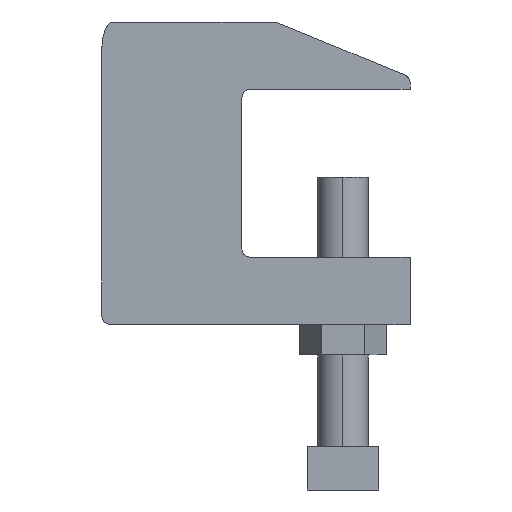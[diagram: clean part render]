
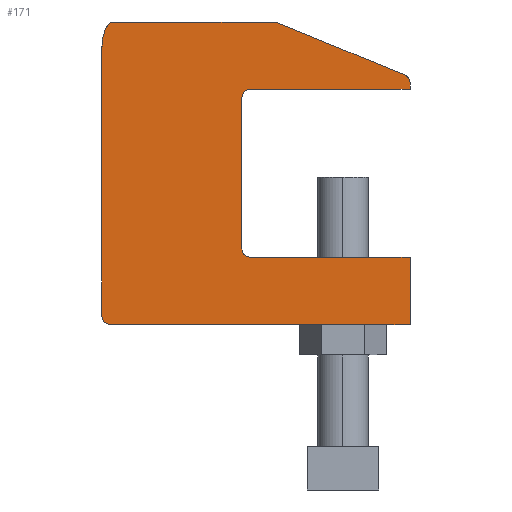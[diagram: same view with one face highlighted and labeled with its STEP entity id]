
A CAD part, front view. The second image highlights one B-rep face of the part: STEP entity #171.
In plain terms, the highlighted planar face has unit normal (0, -1, 0).
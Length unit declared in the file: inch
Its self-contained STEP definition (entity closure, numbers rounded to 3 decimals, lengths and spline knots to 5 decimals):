
#171=ADVANCED_FACE('',(#330),#331,.T.);
#330=FACE_OUTER_BOUND('',#615,.T.);
#331=PLANE('',#616);
#615=EDGE_LOOP('',(#929,#930,#931,#932,#933,#934,#935,#936,#937,#938,#939,#940,#941,#942,#943));
#616=AXIS2_PLACEMENT_3D('',#944,#945,#946);
#929=ORIENTED_EDGE('',*,*,#1128,.F.);
#930=ORIENTED_EDGE('',*,*,#1076,.F.);
#931=ORIENTED_EDGE('',*,*,#1124,.F.);
#932=ORIENTED_EDGE('',*,*,#1143,.F.);
#933=ORIENTED_EDGE('',*,*,#1093,.F.);
#934=ORIENTED_EDGE('',*,*,#1137,.F.);
#935=ORIENTED_EDGE('',*,*,#1049,.F.);
#936=ORIENTED_EDGE('',*,*,#1121,.F.);
#937=ORIENTED_EDGE('',*,*,#1109,.F.);
#938=ORIENTED_EDGE('',*,*,#1144,.F.);
#939=ORIENTED_EDGE('',*,*,#1033,.F.);
#940=ORIENTED_EDGE('',*,*,#1041,.F.);
#941=ORIENTED_EDGE('',*,*,#1118,.F.);
#942=ORIENTED_EDGE('',*,*,#1045,.F.);
#943=ORIENTED_EDGE('',*,*,#1018,.F.);
#944=CARTESIAN_POINT('',(1.02952,0.,1.07648));
#945=DIRECTION('',(0.0,-1.0,0.0));
#946=DIRECTION('',(1.0,0.0,0.0));
#1018=EDGE_CURVE('',#1191,#1192,#1193,.T.);
#1033=EDGE_CURVE('',#1218,#1219,#1220,.T.);
#1041=EDGE_CURVE('',#1232,#1218,#1233,.T.);
#1045=EDGE_CURVE('',#1192,#1238,#1239,.T.);
#1049=EDGE_CURVE('',#1244,#1245,#1246,.T.);
#1076=EDGE_CURVE('',#1288,#1289,#1290,.T.);
#1093=EDGE_CURVE('',#1313,#1314,#1315,.T.);
#1109=EDGE_CURVE('',#1334,#1335,#1336,.T.);
#1118=EDGE_CURVE('',#1238,#1232,#1347,.T.);
#1121=EDGE_CURVE('',#1335,#1244,#1350,.T.);
#1124=EDGE_CURVE('',#1353,#1288,#1354,.T.);
#1128=EDGE_CURVE('',#1289,#1191,#1359,.T.);
#1137=EDGE_CURVE('',#1245,#1313,#1369,.T.);
#1143=EDGE_CURVE('',#1314,#1353,#1375,.T.);
#1144=EDGE_CURVE('',#1219,#1334,#1376,.T.);
#1191=VERTEX_POINT('',#1452);
#1192=VERTEX_POINT('',#1453);
#1193=B_SPLINE_CURVE_WITH_KNOTS('',3,(#1454,#1455,#1456,#1457),.UNSPECIFIED.,.F.,.F.,(4,4),(-1.0,-0.0),.UNSPECIFIED.);
#1218=VERTEX_POINT('',#1503);
#1219=VERTEX_POINT('',#1504);
#1220=ELLIPSE('',#1505,0.05891,0.05539);
#1232=VERTEX_POINT('',#1528);
#1233=LINE('',#1529,#1530);
#1238=VERTEX_POINT('',#1537);
#1239=LINE('',#1538,#1539);
#1244=VERTEX_POINT('',#1546);
#1245=VERTEX_POINT('',#1547);
#1246=LINE('',#1548,#1549);
#1288=VERTEX_POINT('',#1616);
#1289=VERTEX_POINT('',#1617);
#1290=LINE('',#1618,#1619);
#1313=VERTEX_POINT('',#1653);
#1314=VERTEX_POINT('',#1654);
#1315=LINE('',#1655,#1656);
#1334=VERTEX_POINT('',#1695);
#1335=VERTEX_POINT('',#1696);
#1336=B_SPLINE_CURVE_WITH_KNOTS('',3,(#1697,#1698,#1699,#1700),.UNSPECIFIED.,.F.,.F.,(4,4),(-1.0,-0.0),.UNSPECIFIED.);
#1347=ELLIPSE('',#1718,0.2748,0.27366);
#1350=LINE('',#1724,#1725);
#1353=VERTEX_POINT('',#1729);
#1354=LINE('',#1730,#1731);
#1359=LINE('',#1738,#1739);
#1369=B_SPLINE_CURVE_WITH_KNOTS('',3,(#1758,#1759,#1760,#1761),.UNSPECIFIED.,.F.,.F.,(4,4),(-1.0,-0.0),.UNSPECIFIED.);
#1375=B_SPLINE_CURVE_WITH_KNOTS('',3,(#1773,#1774,#1775,#1776),.UNSPECIFIED.,.F.,.F.,(4,4),(-1.0,-0.0),.UNSPECIFIED.);
#1376=LINE('',#1777,#1778);
#1452=CARTESIAN_POINT('',(0.0,0.,0.));
#1453=CARTESIAN_POINT('',(-0.0625,0.,0.0625));
#1454=CARTESIAN_POINT('',(0.0,0.,0.));
#1455=CARTESIAN_POINT('',(-0.03452,0.,0.));
#1456=CARTESIAN_POINT('',(-0.0625,0.,0.02798));
#1457=CARTESIAN_POINT('',(-0.0625,0.,0.0625));
#1503=CARTESIAN_POINT('',(1.21923,0.,2.25));
#1504=CARTESIAN_POINT('',(1.23786,0.,2.24716));
#1505=AXIS2_PLACEMENT_3D('',#1807,#1808,#1809);
#1528=CARTESIAN_POINT('',(0.0,0.,2.25));
#1529=CARTESIAN_POINT('',(1.21923,0.,2.25));
#1530=VECTOR('',#1815,1.0);
#1537=CARTESIAN_POINT('',(-0.0625,0.,2.0625));
#1538=CARTESIAN_POINT('',(-0.0625,0.,2.0625));
#1539=VECTOR('',#1818,1.0);
#1546=CARTESIAN_POINT('',(2.22876,0.,1.75));
#1547=CARTESIAN_POINT('',(1.04126,0.,1.75));
#1548=CARTESIAN_POINT('',(1.04126,0.,1.75));
#1549=VECTOR('',#1821,1.0);
#1616=CARTESIAN_POINT('',(2.22876,0.,0.5));
#1617=CARTESIAN_POINT('',(2.22876,0.,0.));
#1618=CARTESIAN_POINT('',(2.22876,0.,0.));
#1619=VECTOR('',#1838,1.0);
#1653=CARTESIAN_POINT('',(0.97876,0.,1.6875));
#1654=CARTESIAN_POINT('',(0.97876,0.,0.5625));
#1655=CARTESIAN_POINT('',(0.97876,0.,0.5625));
#1656=VECTOR('',#1850,1.0);
#1695=CARTESIAN_POINT('',(2.18491,0.,1.85746));
#1696=CARTESIAN_POINT('',(2.22876,0.,1.7978));
#1697=CARTESIAN_POINT('',(2.18491,0.,1.85746));
#1698=CARTESIAN_POINT('',(2.21099,0.,1.8493));
#1699=CARTESIAN_POINT('',(2.22876,0.,1.82514));
#1700=CARTESIAN_POINT('',(2.22876,0.,1.7978));
#1718=AXIS2_PLACEMENT_3D('',#1860,#1861,#1862);
#1724=CARTESIAN_POINT('',(2.22876,0.,1.75));
#1725=VECTOR('',#1863,1.0);
#1729=CARTESIAN_POINT('',(1.04126,0.,0.5));
#1730=CARTESIAN_POINT('',(2.22876,0.,0.5));
#1731=VECTOR('',#1865,1.0);
#1738=CARTESIAN_POINT('',(0.0,0.,0.));
#1739=VECTOR('',#1868,1.0);
#1758=CARTESIAN_POINT('',(1.04126,0.,1.75));
#1759=CARTESIAN_POINT('',(1.00675,0.,1.75));
#1760=CARTESIAN_POINT('',(0.97876,0.,1.72202));
#1761=CARTESIAN_POINT('',(0.97876,0.,1.6875));
#1773=CARTESIAN_POINT('',(0.97876,0.,0.5625));
#1774=CARTESIAN_POINT('',(0.97876,0.,0.52798));
#1775=CARTESIAN_POINT('',(1.00675,0.,0.5));
#1776=CARTESIAN_POINT('',(1.04126,0.,0.5));
#1777=CARTESIAN_POINT('',(2.18491,0.,1.85746));
#1778=VECTOR('',#1872,1.0);
#1807=CARTESIAN_POINT('',(1.21949,0.,2.1946));
#1808=DIRECTION('',(-0.0,1.0,0.0));
#1809=DIRECTION('',(0.999,0.0,-0.037));
#1815=DIRECTION('',(1.0,0.0,0.0));
#1818=DIRECTION('',(0.0,0.0,1.0));
#1821=DIRECTION('',(-1.0,0.0,-0.0));
#1838=DIRECTION('',(-0.0,0.0,-1.0));
#1850=DIRECTION('',(-0.0,0.0,-1.0));
#1860=CARTESIAN_POINT('',(0.21099,0.,2.07548));
#1861=DIRECTION('',(-0.0,1.0,0.0));
#1862=DIRECTION('',(0.306,0.0,0.952));
#1863=DIRECTION('',(-0.0,0.0,-1.0));
#1865=DIRECTION('',(1.0,0.0,0.0));
#1868=DIRECTION('',(-1.0,0.0,-0.0));
#1872=DIRECTION('',(0.925,0.0,-0.381));
